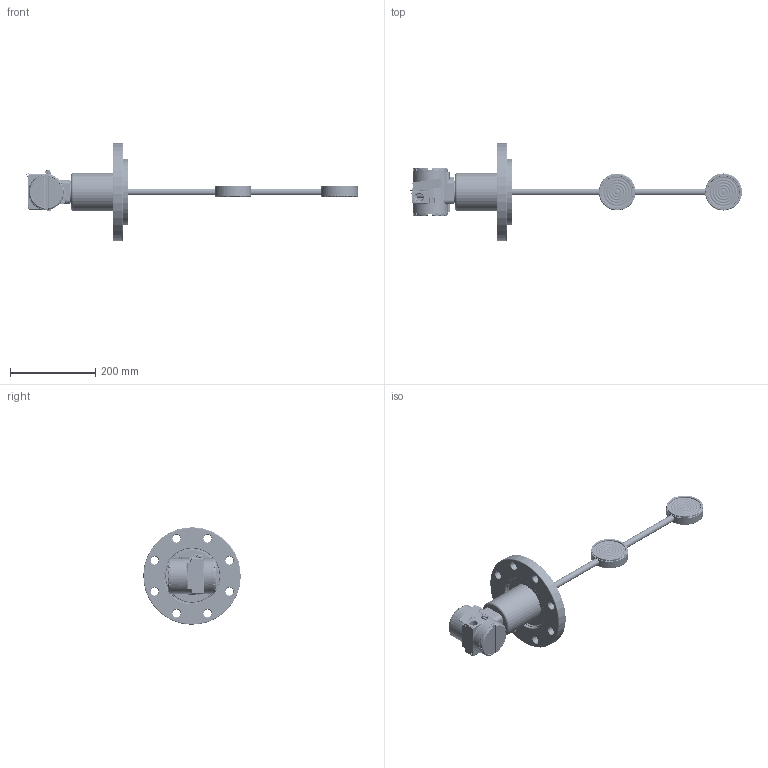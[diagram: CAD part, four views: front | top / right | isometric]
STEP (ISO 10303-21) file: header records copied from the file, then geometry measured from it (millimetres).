
FILE_DESCRIPTION(/* description */ (''),/* implementation_level */ '2;1');
FILE_NAME(/* name */ '\\srvfls01\dados\Area\Desenvolvimento_2\Projects\Sensor\projetos\DT\DETALHAMENTO DE PROJETO EM PROCESSO\DT250 NOVO\DT-250- CORRUGADO 85\3d internet\101-D-1235-03 DT30XI final com carcaça.stp',/* time_stamp */ '2023-01-31T17:04:13-03:00',/* author */ ('inventor03'),/* organization */ (''),/* preprocessor_version */ 'ST-DEVELOPER v17',/* originating_system */ 'Autodesk Inventor 2019',/* authorisation */ '');
FILE_SCHEMA (('AUTOMOTIVE_DESIGN { 1 0 10303 214 3 1 1 }'));
Products named in the file (117): 101-D-1235-03 DT30XI final com carcaça; 101-D-1573-01 Sonda DT 30XI final s-carcaça; 101-C-7648-02 sonda DT30XI s-revest vazia; 101-c-7659-02 corrug com capilares e aneis; 101-B-2168-03; 101-C-7658-03 corrugados com capilares; 101-A-9718-01; 201-A-1255-01; 101-D-1236-02; 101-D-1237-03 Corrug Inferior DT30XI; Curvatura do Capilar Maior 250-01.0001 grande; Curvatura do Capilar Maior 250-01.0001 pequeno; lamina 84-8 corrugado 72; 101-B-2098-07; 101-B-2905-04; 101-B-5908-00; 101-B-aaaa; 101-B-xxxx; tubo entre sensores 250S; 101-B-5907; 101-A-4753-02 proteção do involucro; 101-B-1918-01-TESTE ARREDONDADO; MANTA ISOLAÇÃO; 101-c-7667-01 sensor DT placa e flanges; sensor DT com 101-d-1551 sem fio temp - 01; 101-D-1551-00-apos usin final; celula diferencial fx3 300; diafragma central fx3; potinho metaliz -35-4x12-8; potinho 35-4x12-8; capilar 09x05 potinho1; ceramica potinho 12-8; metalizado 25-5; ceramica dos pinos; vidro 27-7x12-8; Diafragma repetidor; 101-A-1655-00_3D Anel repetidor_AISI-316; BAR CODE LABELS; resina aviao; cisne normal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
Assembly tree (159 placements, depth 7):
  101-D-1235-03 DT30XI final com carcaça
    101-D-1573-01 Sonda DT 30XI final s-carcaça
      101-C-7648-02 sonda DT30XI s-revest vazia
        101-c-7659-02 corrug com capilares e aneis
          lamina 84-8 corrugado 72  x2
          101-B-2168-03  x2
          101-C-7658-03 corrugados com capilares
            101-A-9718-01  x3
            201-A-1255-01
            101-D-1236-02
            101-D-1237-03 Corrug Inferior DT30XI
            Curvatura do Capilar Maior 250-01.0001 grande
            Curvatura do Capilar Maior 250-01.0001 pequeno
            lamina 84-8 corrugado 72  x2
        101-B-2098-07
        101-B-2905-04  x2
        101-B-5908-00
        101-B-aaaa
        101-B-xxxx
        tubo entre sensores 250S
        101-B-5907
      101-A-4753-02 proteção do involucro
      101-B-1918-01-TESTE ARREDONDADO
      fio sensor temperatura DT industrial reto
      MANTA ISOLAÇÃO
      101-c-7667-01 sensor DT placa e flanges
        sensor DT com 101-d-1551 sem fio temp - 01
          101-D-1551-00-apos usin final
          celula diferencial fx3 300
            diafragma central fx3
            potinho metaliz -35-4x12-8  x2
              potinho 35-4x12-8
              capilar 09x05 potinho1
              ceramica potinho 12-8
              metalizado 25-5
              ceramica dos pinos
              vidro 27-7x12-8
            Diafragma repetidor  x2
            101-A-1655-00_3D Anel repetidor_AISI-316  x2
            BAR CODE LABELS
            resina aviao  x2
          cisne normal  x2
          bucha pescoco
          ANSI B 27.7M - 3BMI-19
          910 - flat - trava - conector - terra montado na carcaça
            GLL910-04
            flat cable montado na carcaça 400
            Conector flat Cable
            trava flat
            dp460-pe do flat 910
            101-b-0030-anel guia 910
          resina sylgard 567 superior
          fios capacitancia 910
        fio sensor temperatura DT industrial reto
        101-B-8153-00 PLUG SENSOR DT  x2
      O-ring sensor-carcaça
      oring 2007  x2
      Esfera 3,5mm  x2
      DIN 915 - M6 x 10  x2
      101-B-1915-05-original
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Bounding box: 780.22 x 228.78 x 228.78 mm (x, y, z)
Volume: 2104055.5 mm3; surface area: 794325.3 mm2
Topology: 156 solids, 159 shells, 8288 faces, 21386 edges, 13724 vertices
Faces by surface type: plane 4063, cylinder 1647, bspline 1161, torus 844, cone 442, sphere 131
Full cylindrical faces by diameter (mm): 0.356 x70, 0.406 x6, 0.5 x6, 0.501 x16, 0.508 x8, 0.8 x8, 0.835 x2, 0.85 x2, 0.9 x8, 1 x9, 1.016 x4, 1.2 x1, 1.422 x6, 1.5 x8, 1.8 x4, 2 x6, 2.05 x4, 2.1 x2, 2.2 x6, 2.38 x7, 2.459 x5, 2.5 x14, 2.6 x4, 2.642 x1, 2.7 x2, 2.75 x2, 2.8 x8, 2.935 x2, 3 x32, 3.2 x2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
Entity records: 277968 total; most frequent: CARTESIAN_POINT 100339, ORIENTED_EDGE 36546, DIRECTION 34469, EDGE_CURVE 18273, AXIS2_PLACEMENT_3D 12332, VERTEX_POINT 11653, LINE 9805, VECTOR 9805
